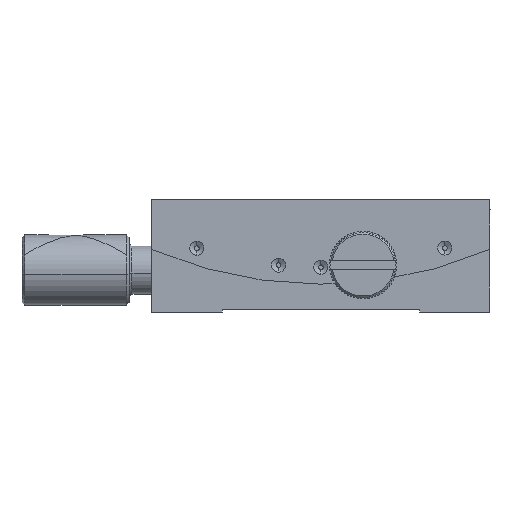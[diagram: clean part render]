
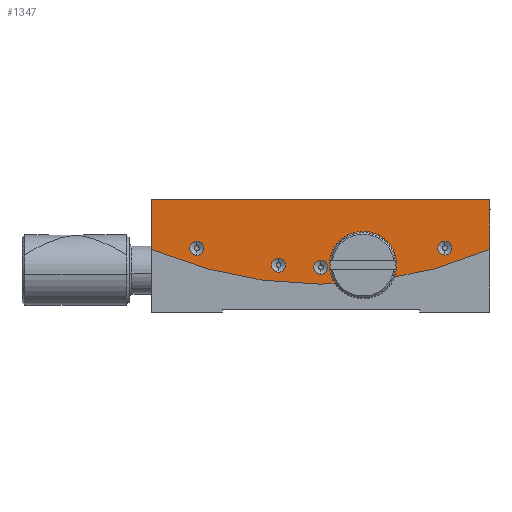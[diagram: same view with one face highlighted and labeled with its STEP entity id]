
A CAD part, front view. The second image highlights one B-rep face of the part: STEP entity #1347.
In plain terms, the highlighted planar face has unit normal (0, -1, 0).
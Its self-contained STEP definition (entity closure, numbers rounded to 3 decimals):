
#178 = DIRECTION ( 'NONE',  ( 0., -1., 0. ) ) ;
#284 = VERTEX_POINT ( 'NONE', #4581 ) ;
#440 = CIRCLE ( 'NONE', #10965, 1.25 ) ;
#527 = VERTEX_POINT ( 'NONE', #5399 ) ;
#706 = CARTESIAN_POINT ( 'NONE',  ( 0., -30., 9.251 ) ) ;
#728 = ORIENTED_EDGE ( 'NONE', *, *, #12749, .F. ) ;
#893 = CARTESIAN_POINT ( 'NONE',  ( 0., -30., 8.001 ) ) ;
#980 = ORIENTED_EDGE ( 'NONE', *, *, #5318, .F. ) ;
#981 = DIRECTION ( 'NONE',  ( 0., -1., 0. ) ) ;
#999 = CARTESIAN_POINT ( 'NONE',  ( -22., -30., 11.371 ) ) ;
#1025 = CARTESIAN_POINT ( 'NONE',  ( -7.5, -30., 7.133 ) ) ;
#1221 = EDGE_CURVE ( 'NONE', #13440, #5742, #16649, .T. ) ;
#1347 = ADVANCED_FACE ( 'NONE', ( #7029, #9838, #11458, #8440, #15890, #2968 ), #8528, .F. ) ;
#1443 = ORIENTED_EDGE ( 'NONE', *, *, #5345, .T. ) ;
#1783 = EDGE_CURVE ( 'NONE', #17385, #284, #6817, .T. ) ;
#1834 = CARTESIAN_POINT ( 'NONE',  ( -30., -30., 20. ) ) ;
#1857 = CARTESIAN_POINT ( 'NONE',  ( -22., -30., 11.371 ) ) ;
#2021 = CARTESIAN_POINT ( 'NONE',  ( 0., -30., 5. ) ) ;
#2320 = CARTESIAN_POINT ( 'NONE',  ( -7.5, -30., 8.383 ) ) ;
#2392 = ORIENTED_EDGE ( 'NONE', *, *, #1221, .F. ) ;
#2589 = DIRECTION ( 'NONE',  ( 0., 0., -1. ) ) ;
#2646 = DIRECTION ( 'NONE',  ( 0., 0., -1. ) ) ;
#2868 = CARTESIAN_POINT ( 'NONE',  ( 22., -30., 10.159 ) ) ;
#2892 = EDGE_LOOP ( 'NONE', ( #6608, #728 ) ) ;
#2968 = FACE_OUTER_BOUND ( 'NONE', #5730, .T. ) ;
#3077 = EDGE_CURVE ( 'NONE', #7416, #18295, #9622, .T. ) ;
#3401 = VERTEX_POINT ( 'NONE', #9958 ) ;
#3451 = CARTESIAN_POINT ( 'NONE',  ( 30., -30., 11.172 ) ) ;
#3735 = DIRECTION ( 'NONE',  ( 0., 0., -1. ) ) ;
#3900 = VERTEX_POINT ( 'NONE', #1025 ) ;
#4089 = CARTESIAN_POINT ( 'NONE',  ( -30., -30., 20. ) ) ;
#4186 = CARTESIAN_POINT ( 'NONE',  ( 7.5, -30., 8.387 ) ) ;
#4204 = AXIS2_PLACEMENT_3D ( 'NONE', #5508, #5321, #9563 ) ;
#4240 = EDGE_CURVE ( 'NONE', #18295, #7416, #16869, .T. ) ;
#4443 = CIRCLE ( 'NONE', #9544, 1.25 ) ;
#4581 = CARTESIAN_POINT ( 'NONE',  ( 22., -30., 12.659 ) ) ;
#4784 = CARTESIAN_POINT ( 'NONE',  ( 30., -30., 20. ) ) ;
#5004 = ORIENTED_EDGE ( 'NONE', *, *, #1783, .F. ) ;
#5009 = ORIENTED_EDGE ( 'NONE', *, *, #12446, .F. ) ;
#5318 = EDGE_CURVE ( 'NONE', #6515, #13440, #7354, .T. ) ;
#5321 = DIRECTION ( 'NONE',  ( 0., -1., 0. ) ) ;
#5324 = DIRECTION ( 'NONE',  ( 0., -1., 0. ) ) ;
#5345 = EDGE_CURVE ( 'NONE', #7419, #5742, #13590, .T. ) ;
#5399 = CARTESIAN_POINT ( 'NONE',  ( -30., -30., 11.172 ) ) ;
#5508 = CARTESIAN_POINT ( 'NONE',  ( 7.5, -30., 8.387 ) ) ;
#5723 = CIRCLE ( 'NONE', #13231, 1.25 ) ;
#5730 = EDGE_LOOP ( 'NONE', ( #16792, #1443, #2392, #980, #14762 ) ) ;
#5742 = VERTEX_POINT ( 'NONE', #3451 ) ;
#5748 = AXIS2_PLACEMENT_3D ( 'NONE', #893, #981, #6734 ) ;
#5925 = DIRECTION ( 'NONE',  ( 0., 0., -1. ) ) ;
#6109 = VERTEX_POINT ( 'NONE', #13754 ) ;
#6189 = DIRECTION ( 'NONE',  ( 0., 0., -1. ) ) ;
#6478 = DIRECTION ( 'NONE',  ( 0., 0., -1. ) ) ;
#6515 = VERTEX_POINT ( 'NONE', #11471 ) ;
#6608 = ORIENTED_EDGE ( 'NONE', *, *, #8014, .F. ) ;
#6670 = CARTESIAN_POINT ( 'NONE',  ( 30., -30., 20. ) ) ;
#6734 = DIRECTION ( 'NONE',  ( 0., 0., -1. ) ) ;
#6817 = CIRCLE ( 'NONE', #14319, 1.25 ) ;
#6823 = CIRCLE ( 'NONE', #16463, 1.25 ) ;
#6863 = CARTESIAN_POINT ( 'NONE',  ( 22., -30., 11.409 ) ) ;
#6894 = VERTEX_POINT ( 'NONE', #8026 ) ;
#7029 = FACE_BOUND ( 'NONE', #11972, .T. ) ;
#7118 = DIRECTION ( 'NONE',  ( 0., 0., 1. ) ) ;
#7354 = LINE ( 'NONE', #14594, #7894 ) ;
#7364 = ORIENTED_EDGE ( 'NONE', *, *, #4240, .F. ) ;
#7368 = ORIENTED_EDGE ( 'NONE', *, *, #3077, .F. ) ;
#7416 = VERTEX_POINT ( 'NONE', #706 ) ;
#7419 = VERTEX_POINT ( 'NONE', #2021 ) ;
#7428 = VERTEX_POINT ( 'NONE', #12011 ) ;
#7435 = ORIENTED_EDGE ( 'NONE', *, *, #17024, .F. ) ;
#7894 = VECTOR ( 'NONE', #13082, 1000. ) ;
#7991 = DIRECTION ( 'NONE',  ( 0., 0., -1. ) ) ;
#8014 = EDGE_CURVE ( 'NONE', #3401, #12349, #8729, .T. ) ;
#8026 = CARTESIAN_POINT ( 'NONE',  ( -7.5, -30., 9.633 ) ) ;
#8141 = EDGE_LOOP ( 'NONE', ( #5009, #13573 ) ) ;
#8440 = FACE_BOUND ( 'NONE', #2892, .T. ) ;
#8475 = EDGE_CURVE ( 'NONE', #284, #17385, #5723, .T. ) ;
#8528 = PLANE ( 'NONE',  #9895 ) ;
#8587 = EDGE_LOOP ( 'NONE', ( #7364, #7368 ) ) ;
#8729 = CIRCLE ( 'NONE', #4204, 1.25 ) ;
#8947 = VECTOR ( 'NONE', #13220, 1000. ) ;
#9229 = AXIS2_PLACEMENT_3D ( 'NONE', #2320, #12492, #6478 ) ;
#9474 = DIRECTION ( 'NONE',  ( 0., 0., -1. ) ) ;
#9544 = AXIS2_PLACEMENT_3D ( 'NONE', #4186, #14073, #2589 ) ;
#9563 = DIRECTION ( 'NONE',  ( 0., 0., -1. ) ) ;
#9622 = CIRCLE ( 'NONE', #15960, 1.25 ) ;
#9806 = EDGE_CURVE ( 'NONE', #527, #7419, #14150, .T. ) ;
#9838 = FACE_BOUND ( 'NONE', #8141, .T. ) ;
#9895 = AXIS2_PLACEMENT_3D ( 'NONE', #4089, #14077, #7118 ) ;
#9958 = CARTESIAN_POINT ( 'NONE',  ( 7.5, -30., 7.137 ) ) ;
#10335 = DIRECTION ( 'NONE',  ( 0., -1., 0. ) ) ;
#10524 = ORIENTED_EDGE ( 'NONE', *, *, #8475, .F. ) ;
#10965 = AXIS2_PLACEMENT_3D ( 'NONE', #1857, #10335, #6189 ) ;
#11168 = CARTESIAN_POINT ( 'NONE',  ( 7.5, -30., 9.637 ) ) ;
#11186 = AXIS2_PLACEMENT_3D ( 'NONE', #15158, #12239, #7991 ) ;
#11400 = DIRECTION ( 'NONE',  ( 0., -1., 0. ) ) ;
#11458 = FACE_BOUND ( 'NONE', #8587, .T. ) ;
#11471 = CARTESIAN_POINT ( 'NONE',  ( -30., -30., 20. ) ) ;
#11499 = CARTESIAN_POINT ( 'NONE',  ( 0., -30., 8.001 ) ) ;
#11972 = EDGE_LOOP ( 'NONE', ( #17579, #7435 ) ) ;
#12011 = CARTESIAN_POINT ( 'NONE',  ( -22., -30., 10.121 ) ) ;
#12239 = DIRECTION ( 'NONE',  ( 0., -1., 0. ) ) ;
#12349 = VERTEX_POINT ( 'NONE', #11168 ) ;
#12438 = EDGE_CURVE ( 'NONE', #7428, #6109, #6823, .T. ) ;
#12446 = EDGE_CURVE ( 'NONE', #3900, #6894, #17355, .T. ) ;
#12492 = DIRECTION ( 'NONE',  ( 0., -1., 0. ) ) ;
#12749 = EDGE_CURVE ( 'NONE', #12349, #3401, #4443, .T. ) ;
#13082 = DIRECTION ( 'NONE',  ( 1., 0., 0. ) ) ;
#13220 = DIRECTION ( 'NONE',  ( 0., 0., -1. ) ) ;
#13231 = AXIS2_PLACEMENT_3D ( 'NONE', #14133, #15848, #17159 ) ;
#13312 = LINE ( 'NONE', #1834, #8947 ) ;
#13440 = VERTEX_POINT ( 'NONE', #4784 ) ;
#13573 = ORIENTED_EDGE ( 'NONE', *, *, #16165, .F. ) ;
#13575 = AXIS2_PLACEMENT_3D ( 'NONE', #15912, #178, #5925 ) ;
#13590 = CIRCLE ( 'NONE', #11186, 76. ) ;
#13754 = CARTESIAN_POINT ( 'NONE',  ( -22., -30., 12.621 ) ) ;
#13829 = DIRECTION ( 'NONE',  ( 0., 0., -1. ) ) ;
#14073 = DIRECTION ( 'NONE',  ( 0., -1., 0. ) ) ;
#14077 = DIRECTION ( 'NONE',  ( 0., 1., 0. ) ) ;
#14133 = CARTESIAN_POINT ( 'NONE',  ( 22., -30., 11.409 ) ) ;
#14150 = CIRCLE ( 'NONE', #13575, 76. ) ;
#14319 = AXIS2_PLACEMENT_3D ( 'NONE', #6863, #18260, #13829 ) ;
#14594 = CARTESIAN_POINT ( 'NONE',  ( -30., -30., 20. ) ) ;
#14719 = VECTOR ( 'NONE', #3735, 1000. ) ;
#14762 = ORIENTED_EDGE ( 'NONE', *, *, #14929, .T. ) ;
#14929 = EDGE_CURVE ( 'NONE', #6515, #527, #13312, .T. ) ;
#15158 = CARTESIAN_POINT ( 'NONE',  ( 0., -30., 81. ) ) ;
#15468 = CIRCLE ( 'NONE', #17883, 1.25 ) ;
#15564 = DIRECTION ( 'NONE',  ( 0., -1., 0. ) ) ;
#15644 = DIRECTION ( 'NONE',  ( 0., 0., -1. ) ) ;
#15848 = DIRECTION ( 'NONE',  ( 0., -1., 0. ) ) ;
#15890 = FACE_BOUND ( 'NONE', #18524, .T. ) ;
#15912 = CARTESIAN_POINT ( 'NONE',  ( 0., -30., 81. ) ) ;
#15919 = CARTESIAN_POINT ( 'NONE',  ( 0., -30., 6.751 ) ) ;
#15960 = AXIS2_PLACEMENT_3D ( 'NONE', #11499, #11400, #15644 ) ;
#16165 = EDGE_CURVE ( 'NONE', #6894, #3900, #15468, .T. ) ;
#16463 = AXIS2_PLACEMENT_3D ( 'NONE', #999, #5324, #9474 ) ;
#16649 = LINE ( 'NONE', #6670, #14719 ) ;
#16792 = ORIENTED_EDGE ( 'NONE', *, *, #9806, .T. ) ;
#16869 = CIRCLE ( 'NONE', #5748, 1.25 ) ;
#17024 = EDGE_CURVE ( 'NONE', #6109, #7428, #440, .T. ) ;
#17158 = CARTESIAN_POINT ( 'NONE',  ( -7.5, -30., 8.383 ) ) ;
#17159 = DIRECTION ( 'NONE',  ( 0., 0., -1. ) ) ;
#17355 = CIRCLE ( 'NONE', #9229, 1.25 ) ;
#17385 = VERTEX_POINT ( 'NONE', #2868 ) ;
#17579 = ORIENTED_EDGE ( 'NONE', *, *, #12438, .F. ) ;
#17883 = AXIS2_PLACEMENT_3D ( 'NONE', #17158, #15564, #2646 ) ;
#18260 = DIRECTION ( 'NONE',  ( 0., -1., 0. ) ) ;
#18295 = VERTEX_POINT ( 'NONE', #15919 ) ;
#18524 = EDGE_LOOP ( 'NONE', ( #5004, #10524 ) ) ;
